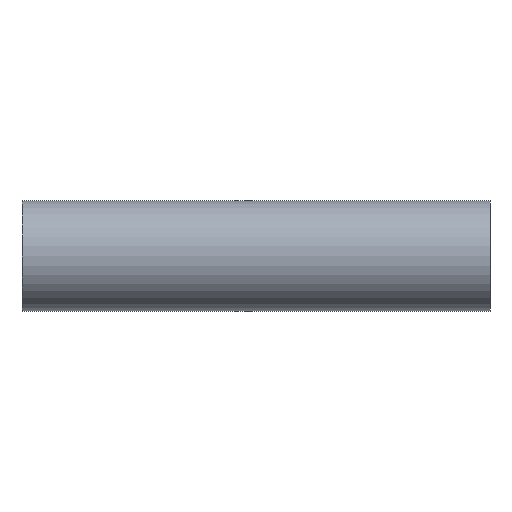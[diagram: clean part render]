
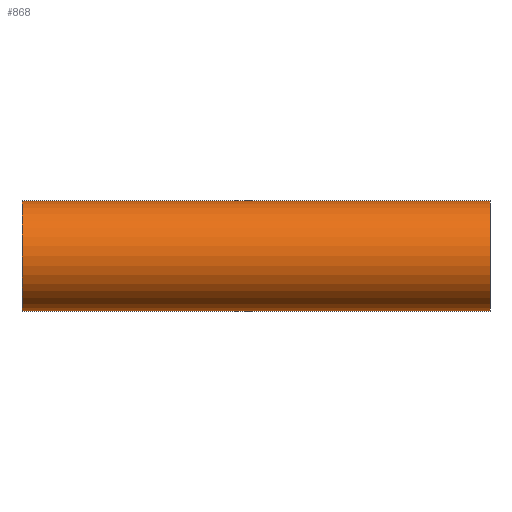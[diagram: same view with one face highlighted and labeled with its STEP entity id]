
A CAD part, front view. The second image highlights one B-rep face of the part: STEP entity #868.
In plain terms, the highlighted cylindrical face has radius 12.7 mm (diameter 25.4 mm), a partial arc.
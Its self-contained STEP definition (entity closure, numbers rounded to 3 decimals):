
#25 = DIRECTION ( 'NONE',  ( 1., 0., 0. ) ) ;
#33 = EDGE_CURVE ( 'NONE', #700, #396, #375, .T. ) ;
#125 = CARTESIAN_POINT ( 'NONE',  ( -54., 0., 12.7 ) ) ;
#197 = CARTESIAN_POINT ( 'NONE',  ( -54., 0., 12.7 ) ) ;
#228 = AXIS2_PLACEMENT_3D ( 'NONE', #1047, #1050, #1053 ) ;
#285 = CARTESIAN_POINT ( 'NONE',  ( -54., 0., 0. ) ) ;
#289 = ORIENTED_EDGE ( 'NONE', *, *, #622, .F. ) ;
#301 = EDGE_CURVE ( 'NONE', #1304, #1296, #891, .T. ) ;
#328 = ORIENTED_EDGE ( 'NONE', *, *, #301, .T. ) ;
#366 = VECTOR ( 'NONE', #25, 1000. ) ;
#375 = CIRCLE ( 'NONE', #1111, 12.7 ) ;
#396 = VERTEX_POINT ( 'NONE', #894 ) ;
#419 = CARTESIAN_POINT ( 'NONE',  ( 54., 0., -12.7 ) ) ;
#440 = LINE ( 'NONE', #125, #366 ) ;
#539 = ORIENTED_EDGE ( 'NONE', *, *, #1188, .T. ) ;
#571 = EDGE_LOOP ( 'NONE', ( #289, #328, #539, #892 ) ) ;
#579 = VECTOR ( 'NONE', #1035, 1000. ) ;
#622 = EDGE_CURVE ( 'NONE', #1304, #396, #440, .T. ) ;
#700 = VERTEX_POINT ( 'NONE', #419 ) ;
#729 = DIRECTION ( 'NONE',  ( 0., 0., -1. ) ) ;
#751 = CARTESIAN_POINT ( 'NONE',  ( -54., 0., -12.7 ) ) ;
#758 = LINE ( 'NONE', #751, #579 ) ;
#840 = DIRECTION ( 'NONE',  ( 1., 0., 0. ) ) ;
#868 = ADVANCED_FACE ( 'NONE', ( #1277 ), #1166, .T. ) ;
#891 = CIRCLE ( 'NONE', #228, 12.7 ) ;
#892 = ORIENTED_EDGE ( 'NONE', *, *, #33, .T. ) ;
#894 = CARTESIAN_POINT ( 'NONE',  ( 54., 0., 12.7 ) ) ;
#927 = CARTESIAN_POINT ( 'NONE',  ( -54., 0., -12.7 ) ) ;
#1035 = DIRECTION ( 'NONE',  ( 1., 0., 0. ) ) ;
#1047 = CARTESIAN_POINT ( 'NONE',  ( -54., 0., 0. ) ) ;
#1050 = DIRECTION ( 'NONE',  ( 1., 0., 0. ) ) ;
#1053 = DIRECTION ( 'NONE',  ( 0., 0., -1. ) ) ;
#1100 = DIRECTION ( 'NONE',  ( 0., 0., -1. ) ) ;
#1104 = DIRECTION ( 'NONE',  ( -1., 0., 0. ) ) ;
#1111 = AXIS2_PLACEMENT_3D ( 'NONE', #1140, #1104, #1100 ) ;
#1140 = CARTESIAN_POINT ( 'NONE',  ( 54., 0., 0. ) ) ;
#1166 = CYLINDRICAL_SURFACE ( 'NONE', #1286, 12.7 ) ;
#1188 = EDGE_CURVE ( 'NONE', #1296, #700, #758, .T. ) ;
#1277 = FACE_OUTER_BOUND ( 'NONE', #571, .T. ) ;
#1286 = AXIS2_PLACEMENT_3D ( 'NONE', #285, #840, #729 ) ;
#1296 = VERTEX_POINT ( 'NONE', #927 ) ;
#1304 = VERTEX_POINT ( 'NONE', #197 ) ;
